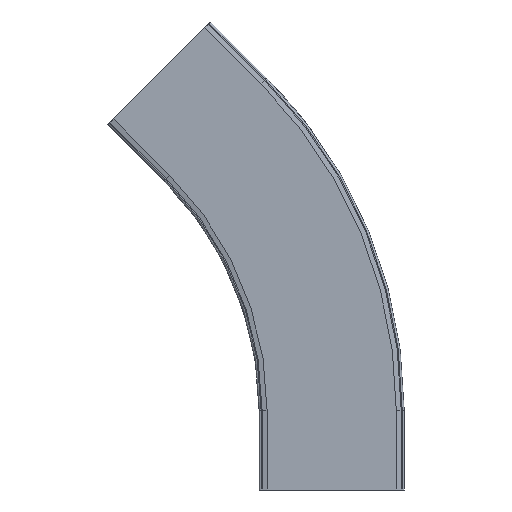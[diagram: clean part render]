
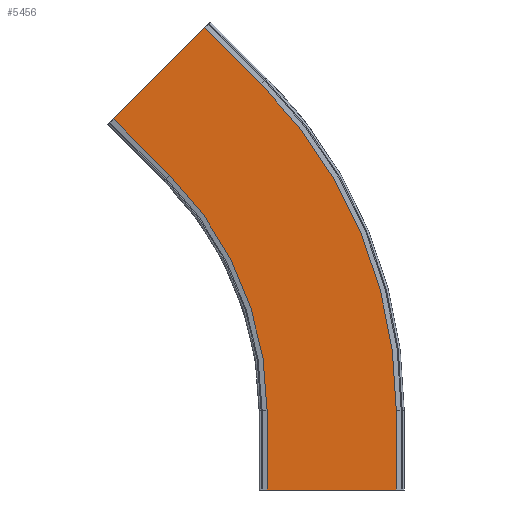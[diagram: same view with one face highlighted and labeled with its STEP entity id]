
A CAD part, front view. The second image highlights one B-rep face of the part: STEP entity #5456.
In plain terms, the highlighted planar face has unit normal (0, -1, 0).
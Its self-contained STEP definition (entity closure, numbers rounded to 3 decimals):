
#5213=CARTESIAN_POINT('',(104.,-74.,0.0));
#5214=VERTEX_POINT('',#5213);
#5221=CARTESIAN_POINT('',(-26.,-74.,0.0));
#5222=VERTEX_POINT('',#5221);
#5223=CARTESIAN_POINT('',(-26.,-74.,0.0));
#5224=DIRECTION('',(1.0,0.0,0.0));
#5225=VECTOR('',#5224,130.);
#5226=LINE('',#5223,#5225);
#5227=EDGE_CURVE('',#5222,#5214,#5226,.T.);
#5282=CARTESIAN_POINT('',(-26.,-74.,80.0));
#5283=VERTEX_POINT('',#5282);
#5292=CARTESIAN_POINT('',(-26.,-74.,0.0));
#5293=DIRECTION('',(0.0,0.0,1.0));
#5294=VECTOR('',#5293,80.0);
#5295=LINE('',#5292,#5294);
#5296=EDGE_CURVE('',#5222,#5283,#5295,.T.);
#5306=CARTESIAN_POINT('',(104.,-74.,80.0));
#5307=VERTEX_POINT('',#5306);
#5316=CARTESIAN_POINT('',(104.,-74.,0.0));
#5317=DIRECTION('',(0.0,0.0,1.0));
#5318=VECTOR('',#5317,80.0);
#5319=LINE('',#5316,#5318);
#5320=EDGE_CURVE('',#5214,#5307,#5319,.T.);
#5339=CARTESIAN_POINT('',(-124.119,-74.,316.881));
#5340=VERTEX_POINT('',#5339);
#5355=CARTESIAN_POINT('',(-361.,-74.,80.0));
#5356=DIRECTION('',(0.0,-1.0,0.0));
#5357=DIRECTION('',(1.0,0.0,0.0));
#5358=AXIS2_PLACEMENT_3D('',#5355,#5356,#5357);
#5359=CIRCLE('',#5358,335.);
#5360=EDGE_CURVE('',#5283,#5340,#5359,.T.);
#5414=CARTESIAN_POINT('',(246.517,-74.,130.092));
#5415=DIRECTION('',(0.0,-1.0,0.0));
#5416=DIRECTION('',(0.707,0.0,-0.707));
#5417=AXIS2_PLACEMENT_3D('',#5414,#5415,#5416);
#5418=PLANE('',#5417);
#5419=CARTESIAN_POINT('',(-88.764,-74.,465.373));
#5420=VERTEX_POINT('',#5419);
#5421=CARTESIAN_POINT('',(-180.688,-74.,373.449));
#5422=VERTEX_POINT('',#5421);
#5423=CARTESIAN_POINT('',(-88.764,-74.,465.373));
#5424=DIRECTION('',(-0.707,0.,-0.707));
#5425=VECTOR('',#5424,130.);
#5426=LINE('',#5423,#5425);
#5427=EDGE_CURVE('',#5420,#5422,#5426,.T.);
#5428=ORIENTED_EDGE('',*,*,#5427,.T.);
#5429=CARTESIAN_POINT('',(-124.119,-74.,316.881));
#5430=DIRECTION('',(-0.707,0.,0.707));
#5431=VECTOR('',#5430,80.0);
#5432=LINE('',#5429,#5431);
#5433=EDGE_CURVE('',#5340,#5422,#5432,.T.);
#5434=ORIENTED_EDGE('',*,*,#5433,.F.);
#5435=ORIENTED_EDGE('',*,*,#5360,.F.);
#5436=ORIENTED_EDGE('',*,*,#5296,.F.);
#5437=ORIENTED_EDGE('',*,*,#5227,.T.);
#5438=ORIENTED_EDGE('',*,*,#5320,.T.);
#5439=CARTESIAN_POINT('',(-32.195,-74.,408.805));
#5440=VERTEX_POINT('',#5439);
#5441=CARTESIAN_POINT('',(-361.,-74.,80.0));
#5442=DIRECTION('',(0.0,-1.0,0.0));
#5443=DIRECTION('',(1.0,0.0,0.0));
#5444=AXIS2_PLACEMENT_3D('',#5441,#5442,#5443);
#5445=CIRCLE('',#5444,465.);
#5446=EDGE_CURVE('',#5307,#5440,#5445,.T.);
#5447=ORIENTED_EDGE('',*,*,#5446,.T.);
#5448=CARTESIAN_POINT('',(-32.195,-74.,408.805));
#5449=DIRECTION('',(-0.707,0.,0.707));
#5450=VECTOR('',#5449,80.0);
#5451=LINE('',#5448,#5450);
#5452=EDGE_CURVE('',#5440,#5420,#5451,.T.);
#5453=ORIENTED_EDGE('',*,*,#5452,.T.);
#5454=EDGE_LOOP('',(#5428,#5434,#5435,#5436,#5437,#5438,#5447,#5453));
#5455=FACE_OUTER_BOUND('',#5454,.T.);
#5456=ADVANCED_FACE('',(#5455),#5418,.T.);
